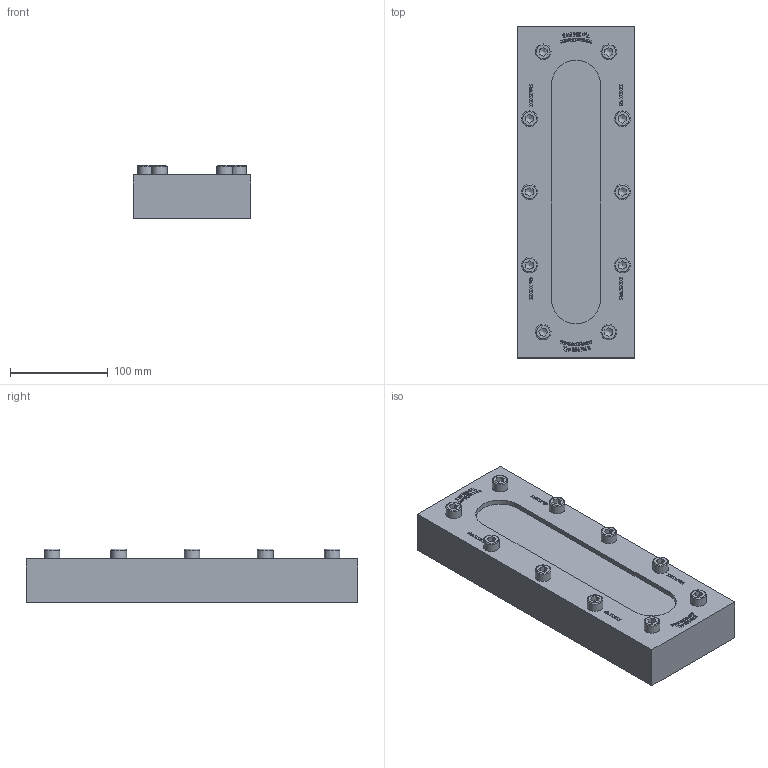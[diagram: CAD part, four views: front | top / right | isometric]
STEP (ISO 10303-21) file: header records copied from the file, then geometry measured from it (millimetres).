
FILE_DESCRIPTION(/* description */ (''),/* implementation_level */ '2;1');
FILE_NAME(/* name */ 'W:\Konstruktion_ACI\334\_Zeichnungen\STEP\ACI-334-340-3.stp',/* time_stamp */ '2022-03-02T16:29:36+01:00',/* author */ ('Travnicek'),/* organization */ ('ACI Industriearmaturen'),/* preprocessor_version */ 'ST-DEVELOPER v16.1',/* originating_system */ 'Autodesk Inventor 2016',/* authorisation */ '');
FILE_SCHEMA (('AUTOMOTIVE_DESIGN { 1 0 10303 214 3 1 1 }'));
Length unit declared in the file: centimetre
Products named in the file (1): ACI-334-340-3
Bounding box: 120 x 340 x 54.96 mm (x, y, z)
Volume: 1542786.7 mm3; surface area: 144825.2 mm2
Topology: 1 solids, 1 shells, 1318 faces, 3620 edges, 2410 vertices
Faces by surface type: plane 912, bspline 372, cylinder 14, torus 10, cone 10
Full cylindrical faces by diameter (mm): 16 x10
Entity records: 44138 total; most frequent: CARTESIAN_POINT 12235, ORIENTED_EDGE 7140, DIRECTION 4698, EDGE_CURVE 3570, LINE 2728, VECTOR 2728, VERTEX_POINT 2390, EDGE_LOOP 1454
